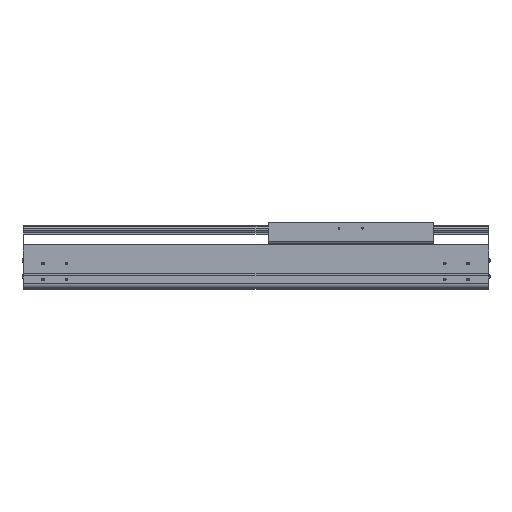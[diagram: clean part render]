
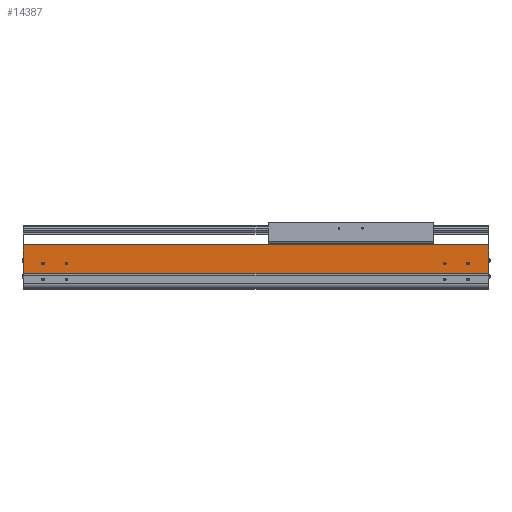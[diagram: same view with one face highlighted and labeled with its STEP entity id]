
A CAD part, top view. The second image highlights one B-rep face of the part: STEP entity #14387.
In plain terms, the highlighted planar face has unit normal (0, 0, 1).
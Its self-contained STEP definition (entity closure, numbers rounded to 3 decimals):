
#734=DIRECTION('',(1.,0.,0.));
#735=VECTOR('',#734,2.);
#736=CARTESIAN_POINT('',(-986.,34.65,107.));
#737=LINE('',#736,#735);
#738=CARTESIAN_POINT('',(-42.,54.,107.));
#739=DIRECTION('',(0.,0.,-1.));
#740=DIRECTION('',(1.,0.,0.));
#741=AXIS2_PLACEMENT_3D('',#738,#739,#740);
#743=CARTESIAN_POINT('',(-42.,54.,107.));
#744=DIRECTION('',(0.,0.,-1.));
#745=DIRECTION('',(-1.,0.,0.));
#746=AXIS2_PLACEMENT_3D('',#743,#744,#745);
#748=CARTESIAN_POINT('',(-92.,54.,107.));
#749=DIRECTION('',(0.,0.,-1.));
#750=DIRECTION('',(1.,0.,0.));
#751=AXIS2_PLACEMENT_3D('',#748,#749,#750);
#753=CARTESIAN_POINT('',(-92.,54.,107.));
#754=DIRECTION('',(0.,0.,-1.));
#755=DIRECTION('',(-1.,0.,0.));
#756=AXIS2_PLACEMENT_3D('',#753,#754,#755);
#758=CARTESIAN_POINT('',(-944.,54.,107.));
#759=DIRECTION('',(0.,0.,-1.));
#760=DIRECTION('',(1.,0.,0.));
#761=AXIS2_PLACEMENT_3D('',#758,#759,#760);
#763=CARTESIAN_POINT('',(-944.,54.,107.));
#764=DIRECTION('',(0.,0.,-1.));
#765=DIRECTION('',(-1.,0.,0.));
#766=AXIS2_PLACEMENT_3D('',#763,#764,#765);
#768=CARTESIAN_POINT('',(-894.,54.,107.));
#769=DIRECTION('',(0.,0.,-1.));
#770=DIRECTION('',(1.,0.,0.));
#771=AXIS2_PLACEMENT_3D('',#768,#769,#770);
#773=CARTESIAN_POINT('',(-894.,54.,107.));
#774=DIRECTION('',(0.,0.,-1.));
#775=DIRECTION('',(-1.,0.,0.));
#776=AXIS2_PLACEMENT_3D('',#773,#774,#775);
#778=DIRECTION('',(0.,-1.,0.));
#779=VECTOR('',#778,2.55);
#780=CARTESIAN_POINT('',(-984.,34.65,107.));
#781=LINE('',#780,#779);
#782=DIRECTION('',(0.,-1.,0.));
#783=VECTOR('',#782,58.85);
#784=CARTESIAN_POINT('',(-986.,93.5,107.));
#785=LINE('',#784,#783);
#786=DIRECTION('',(0.,1.,0.));
#787=VECTOR('',#786,58.85);
#788=CARTESIAN_POINT('',(2.,34.65,107.));
#789=LINE('',#788,#787);
#790=DIRECTION('',(0.,1.,0.));
#791=VECTOR('',#790,2.55);
#792=CARTESIAN_POINT('',(0.,32.1,107.));
#793=LINE('',#792,#791);
#898=DIRECTION('',(-1.,0.,0.));
#899=VECTOR('',#898,988.);
#900=CARTESIAN_POINT('',(2.,93.5,107.));
#901=LINE('',#900,#899);
#2088=DIRECTION('',(1.,0.,0.));
#2089=VECTOR('',#2088,2.);
#2090=CARTESIAN_POINT('',(0.,34.65,107.));
#2091=LINE('',#2090,#2089);
#9884=DIRECTION('',(1.,0.,0.));
#9885=VECTOR('',#9884,984.);
#9886=CARTESIAN_POINT('',(-984.,32.1,107.));
#9887=LINE('',#9886,#9885);
#10537=CARTESIAN_POINT('',(-986.,34.65,107.));
#10538=VERTEX_POINT('',#10537);
#10539=CARTESIAN_POINT('',(-986.,93.5,107.));
#10540=VERTEX_POINT('',#10539);
#10769=CARTESIAN_POINT('',(-984.,32.1,107.));
#10770=VERTEX_POINT('',#10769);
#10865=CARTESIAN_POINT('',(0.,32.1,107.));
#10866=VERTEX_POINT('',#10865);
#11199=CARTESIAN_POINT('',(-39.5,54.,107.));
#11200=CARTESIAN_POINT('',(-44.5,54.,107.));
#11201=VERTEX_POINT('',#11199);
#11202=VERTEX_POINT('',#11200);
#11203=CARTESIAN_POINT('',(-89.5,54.,107.));
#11204=CARTESIAN_POINT('',(-94.5,54.,107.));
#11205=VERTEX_POINT('',#11203);
#11206=VERTEX_POINT('',#11204);
#11207=CARTESIAN_POINT('',(-941.5,54.,107.));
#11208=CARTESIAN_POINT('',(-946.5,54.,107.));
#11209=VERTEX_POINT('',#11207);
#11210=VERTEX_POINT('',#11208);
#11211=CARTESIAN_POINT('',(-891.5,54.,107.));
#11212=CARTESIAN_POINT('',(-896.5,54.,107.));
#11213=VERTEX_POINT('',#11211);
#11214=VERTEX_POINT('',#11212);
#12218=CARTESIAN_POINT('',(2.,34.65,107.));
#12219=VERTEX_POINT('',#12218);
#12220=CARTESIAN_POINT('',(2.,93.5,107.));
#12221=VERTEX_POINT('',#12220);
#12442=CARTESIAN_POINT('',(0.,34.65,107.));
#12443=VERTEX_POINT('',#12442);
#12754=CARTESIAN_POINT('',(-984.,34.65,107.));
#12755=VERTEX_POINT('',#12754);
#14343=CARTESIAN_POINT('',(-492.,62.8,107.));
#14344=DIRECTION('',(0.,0.,1.));
#14345=DIRECTION('',(0.,-1.,0.));
#14346=AXIS2_PLACEMENT_3D('',#14343,#14344,#14345);
#14347=PLANE('',#14346);
#14348=ORIENTED_EDGE('',*,*,#13714,.F.);
#14349=ORIENTED_EDGE('',*,*,#14338,.F.);
#14350=ORIENTED_EDGE('',*,*,#13589,.F.);
#14352=ORIENTED_EDGE('',*,*,#14351,.F.);
#14354=ORIENTED_EDGE('',*,*,#14353,.F.);
#14356=ORIENTED_EDGE('',*,*,#14355,.F.);
#14358=ORIENTED_EDGE('',*,*,#14357,.F.);
#14360=ORIENTED_EDGE('',*,*,#14359,.F.);
#14361=EDGE_LOOP('',(#14348,#14349,#14350,#14352,#14354,#14356,#14358,#14360));
#14362=FACE_OUTER_BOUND('',#14361,.F.);
#14364=ORIENTED_EDGE('',*,*,#14363,.F.);
#14366=ORIENTED_EDGE('',*,*,#14365,.F.);
#14367=EDGE_LOOP('',(#14364,#14366));
#14368=FACE_BOUND('',#14367,.F.);
#14370=ORIENTED_EDGE('',*,*,#14369,.F.);
#14372=ORIENTED_EDGE('',*,*,#14371,.F.);
#14373=EDGE_LOOP('',(#14370,#14372));
#14374=FACE_BOUND('',#14373,.F.);
#14376=ORIENTED_EDGE('',*,*,#14375,.F.);
#14378=ORIENTED_EDGE('',*,*,#14377,.F.);
#14379=EDGE_LOOP('',(#14376,#14378));
#14380=FACE_BOUND('',#14379,.F.);
#14382=ORIENTED_EDGE('',*,*,#14381,.F.);
#14384=ORIENTED_EDGE('',*,*,#14383,.F.);
#14385=EDGE_LOOP('',(#14382,#14384));
#14386=FACE_BOUND('',#14385,.F.);
#14387=ADVANCED_FACE('',(#14362,#14368,#14374,#14380,#14386),#14347,.T.);
#742=CIRCLE('',#741,2.5);
#747=CIRCLE('',#746,2.5);
#752=CIRCLE('',#751,2.5);
#757=CIRCLE('',#756,2.5);
#762=CIRCLE('',#761,2.5);
#767=CIRCLE('',#766,2.5);
#772=CIRCLE('',#771,2.5);
#777=CIRCLE('',#776,2.5);
#13589=EDGE_CURVE('',#10540,#10538,#785,.T.);
#13714=EDGE_CURVE('',#12755,#10770,#781,.T.);
#14338=EDGE_CURVE('',#10538,#12755,#737,.T.);
#14351=EDGE_CURVE('',#12221,#10540,#901,.T.);
#14353=EDGE_CURVE('',#12219,#12221,#789,.T.);
#14355=EDGE_CURVE('',#12443,#12219,#2091,.T.);
#14357=EDGE_CURVE('',#10866,#12443,#793,.T.);
#14359=EDGE_CURVE('',#10770,#10866,#9887,.T.);
#14363=EDGE_CURVE('',#11205,#11206,#752,.T.);
#14365=EDGE_CURVE('',#11206,#11205,#757,.T.);
#14369=EDGE_CURVE('',#11209,#11210,#762,.T.);
#14371=EDGE_CURVE('',#11210,#11209,#767,.T.);
#14375=EDGE_CURVE('',#11213,#11214,#772,.T.);
#14377=EDGE_CURVE('',#11214,#11213,#777,.T.);
#14381=EDGE_CURVE('',#11201,#11202,#742,.T.);
#14383=EDGE_CURVE('',#11202,#11201,#747,.T.);
